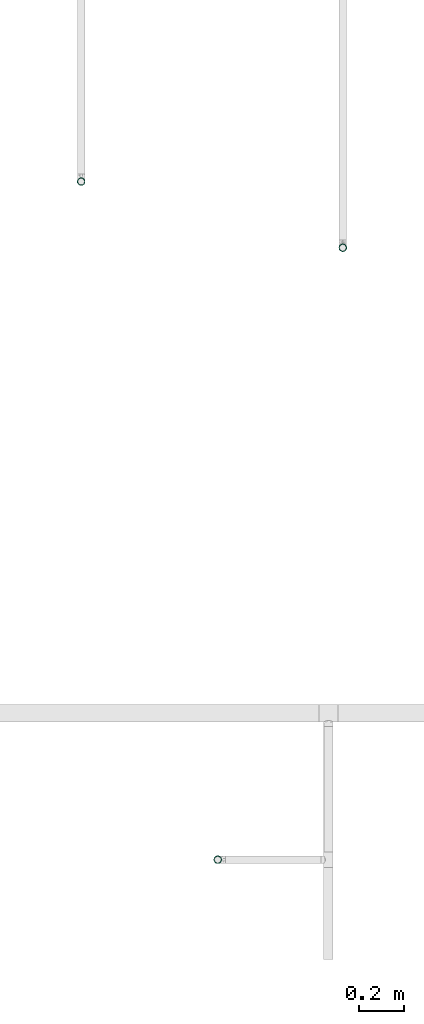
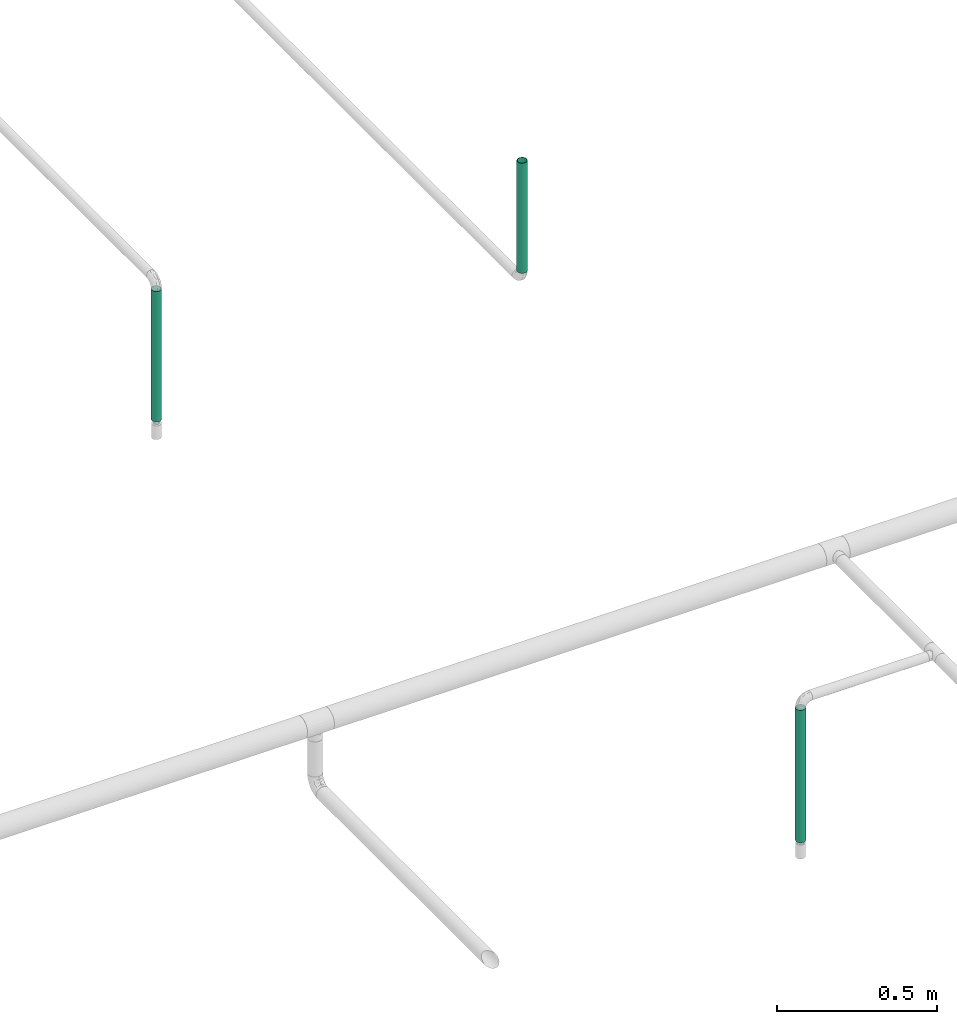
# One storey, part 5 of 95: 3 flow segments.
"""IFC2X3 building model written with IfcOpenShell, lengths in millimetres."""

from ifc_helpers import new_model, entity, si_unit, converted_unit, derived_unit, direction, frame, origin_with_axes, origin_2d_with_axis, place, context, subcontext, project, spatial, hollow_circle, extrude, source, transform, mapped, type_object, element, save


model = new_model("IFC2X3")

# Units and contexts
model_context = context("Model", 3, precision=0.01, world=frame((0.0, 4.29681676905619e-09, 0.0)), true_north=direction((4.01073788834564e-13, 1.0)))
plan_context = context("Plan", 3, precision=0.01, world=frame((0.0, 4.29681676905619e-09, 0.0)), true_north=direction((4.01073788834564e-13, 1.0)))
body_context = subcontext(model_context, "Body", "Model", "MODEL_VIEW")
ifc_project = project(units=[converted_unit("PLANEANGLEUNIT", "DEGREE", entity("IfcPositiveLengthMeasure", 0.0174532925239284), si_unit("PLANEANGLEUNIT", "RADIAN"), dimensions=[0, 0, 0, 0, 0, 0, 0]), si_unit("AREAUNIT", "SQUARE_METRE"), si_unit("LENGTHUNIT", "METRE", prefix="MILLI"), si_unit("MASSUNIT", "GRAM", prefix="KILO"), si_unit("POWERUNIT", "WATT"), si_unit("PRESSUREUNIT", "PASCAL"), si_unit("FORCEUNIT", "NEWTON", prefix="KILO"), si_unit("ELECTRICVOLTAGEUNIT", "VOLT"), si_unit("ELECTRICCURRENTUNIT", "AMPERE"), si_unit("THERMODYNAMICTEMPERATUREUNIT", "DEGREE_CELSIUS"), si_unit("TIMEUNIT", "SECOND"), si_unit("VOLUMEUNIT", "CUBIC_METRE"), derived_unit("LINEARVELOCITYUNIT", [(si_unit("LENGTHUNIT", "METRE"), 1), (si_unit("TIMEUNIT", "SECOND"), -1)]), derived_unit("VOLUMETRICFLOWRATEUNIT", [(si_unit("VOLUMEUNIT", "CUBIC_METRE"), 1), (si_unit("TIMEUNIT", "SECOND"), -1)]), derived_unit("THERMALTRANSMITTANCEUNIT", [(si_unit("POWERUNIT", "WATT"), 1), (si_unit("THERMODYNAMICTEMPERATUREUNIT", "KELVIN"), -1), (si_unit("AREAUNIT", "SQUARE_METRE"), -1)]), derived_unit("SOUNDPRESSUREUNIT", [(si_unit("PRESSUREUNIT", "PASCAL"), 1)])], contexts=[model_context, plan_context])

# Site, building, storey
site_placement = place(None, frame((0.0, -4.29681676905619e-09, 0.0), z_axis=(0.0, 0.0, 1.0), x_axis=(1.0, 0.0, 0.0)))
site = spatial("IfcSite", under=ifc_project, at=site_placement, CompositionType="ELEMENT")
building_placement = place(site_placement, frame((0.0, 4.29681676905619e-09, 0.0), z_axis=(0.0, 0.0, 1.0), x_axis=(1.0, 0.0, 0.0)))
building = spatial("IfcBuilding", under=site, at=building_placement, Name="mc-building", CompositionType="ELEMENT")
storey_placement = place(building_placement, frame((0.0, 0.0, 210900.0), z_axis=(0.0, 0.0, 1.0), x_axis=(1.0, 0.0, 0.0)))
storey = spatial("IfcBuildingStorey", under=building, at=storey_placement, Name="Nivå F", CompositionType="ELEMENT", Elevation=210900.0)

# Flow segments
pipe_segment_type = type_object("IfcPipeSegmentType", Name="Stålrør normaltykke", PredefinedType="RIGIDSEGMENT")
shared_shape_1 = source(origin_with_axes(), body_context, "Body", "SweptSolid", [
    extrude(hollow_circle(Radius=16.9, WallThickness=2.0, at=origin_2d_with_axis()), frame((0.0, 0.0, 0.0), z_axis=(1.0, 0.0, 0.0), x_axis=(0.0, 1.0, 0.0)), (0.0, 0.0, 1.0), 506.9),
])
flow_segment_1_placement = place(storey_placement, frame((526901.52024, 441214.84363, 4276.20000000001), z_axis=(0.0, -1.0, 0.0), x_axis=(0.0, 0.0, -1.0)))
element("IfcFlowSegment", 1, at=flow_segment_1_placement, inside=storey, type_object=pipe_segment_type, Name="Stålrør normaltykke", context=body_context, shape_type="MappedRepresentation", body=[
    mapped(shared_shape_1, transform((0.0, 0.0, 0.0), scale=1.0)),
])
shared_shape_2 = source(origin_with_axes(), body_context, "Body", "SweptSolid", [
    extrude(hollow_circle(Radius=16.9, WallThickness=2.0, at=origin_2d_with_axis()), frame((0.0, 0.0, 0.0), z_axis=(1.0, 0.0, 0.0), x_axis=(0.0, 1.0, 0.0)), (0.0, 0.0, 1.0), 421.1),
])
flow_segment_2_placement = place(storey_placement, frame((527453.43639, 443915.88295, 4116.56795), z_axis=(0.0, 1.0, 0.0), x_axis=(0.0, 0.0, 1.0)))
element("IfcFlowSegment", 2, at=flow_segment_2_placement, inside=storey, type_object=pipe_segment_type, Name="Stålrør normaltykke", context=body_context, shape_type="MappedRepresentation", body=[
    mapped(shared_shape_2, transform((0.0, 0.0, 0.0), scale=1.0)),
])
shared_shape_3 = source(origin_with_axes(), body_context, "Body", "SweptSolid", [
    extrude(hollow_circle(Radius=16.9, WallThickness=2.0, at=origin_2d_with_axis()), frame((0.0, 0.0, 0.0), z_axis=(1.0, 0.0, 0.0), x_axis=(0.0, 1.0, 0.0)), (0.0, 0.0, 1.0), 499.1),
])
flow_segment_3_placement = place(storey_placement, frame((526298.68266, 444207.85, 3775.348), z_axis=(-1.0, 0.0, 0.0), x_axis=(0.0, 0.0, 1.0)))
element("IfcFlowSegment", 3, at=flow_segment_3_placement, inside=storey, type_object=pipe_segment_type, Name="Stålrør normaltykke", context=body_context, shape_type="MappedRepresentation", body=[
    mapped(shared_shape_3, transform((0.0, 0.0, 0.0), scale=1.0)),
])

save(model, "model.ifc")
